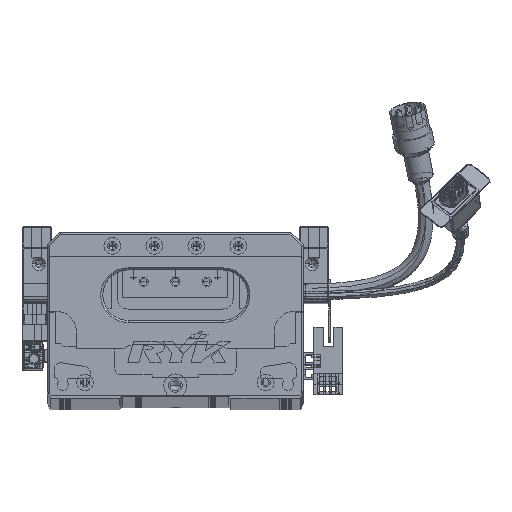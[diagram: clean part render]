
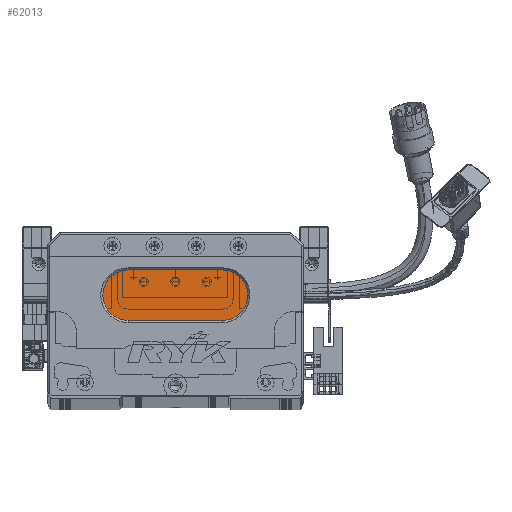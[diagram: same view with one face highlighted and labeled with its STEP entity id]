
A CAD part, top view. The second image highlights one B-rep face of the part: STEP entity #62013.
In plain terms, the highlighted planar face has unit normal (0, 0, 1) as drawn and (0, 0, -1) by its records, which use the part's own axes.
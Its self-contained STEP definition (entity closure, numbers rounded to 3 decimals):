
#4342 = CARTESIAN_POINT ( 'NONE',  ( 38.5, 60., 13. ) ) ;
#5129 = ORIENTED_EDGE ( 'NONE', *, *, #92945, .T. ) ;
#9127 = ORIENTED_EDGE ( 'NONE', *, *, #35374, .T. ) ;
#17272 = VECTOR ( 'NONE', #79340, 1000. ) ;
#17290 = DIRECTION ( 'NONE',  ( -1., 0., 0. ) ) ;
#18651 = CARTESIAN_POINT ( 'NONE',  ( 83.5, 48., 13. ) ) ;
#24919 = VERTEX_POINT ( 'NONE', #4342 ) ;
#26559 = PLANE ( 'NONE',  #80984 ) ;
#28367 = DIRECTION ( 'NONE',  ( 0., 0., -1. ) ) ;
#28507 = AXIS2_PLACEMENT_3D ( 'NONE', #18651, #28367, #92308 ) ;
#35374 = EDGE_CURVE ( 'NONE', #62119, #24919, #78402, .T. ) ;
#49690 = DIRECTION ( 'NONE',  ( -1., 0., 0. ) ) ;
#50902 = CIRCLE ( 'NONE', #114497, 12. ) ;
#51396 = CARTESIAN_POINT ( 'NONE',  ( 83.5, 36., 13. ) ) ;
#52210 = ORIENTED_EDGE ( 'NONE', *, *, #109076, .T. ) ;
#58919 = DIRECTION ( 'NONE',  ( 0., 0., -1. ) ) ;
#59826 = CARTESIAN_POINT ( 'NONE',  ( 38.5, 48., 13. ) ) ;
#61555 = DIRECTION ( 'NONE',  ( -1., 0., 0. ) ) ;
#62013 = ADVANCED_FACE ( 'NONE', ( #126115 ), #26559, .T. ) ;
#62119 = VERTEX_POINT ( 'NONE', #90502 ) ;
#68036 = DIRECTION ( 'NONE',  ( 0., 0., -1. ) ) ;
#73373 = LINE ( 'NONE', #132583, #17272 ) ;
#76301 = EDGE_CURVE ( 'NONE', #118596, #106423, #131019, .T. ) ;
#78402 = CIRCLE ( 'NONE', #131063, 12. ) ;
#79340 = DIRECTION ( 'NONE',  ( 1., 0., 0. ) ) ;
#79958 = CARTESIAN_POINT ( 'NONE',  ( 83.5, 48., 13. ) ) ;
#80984 = AXIS2_PLACEMENT_3D ( 'NONE', #79958, #68036, #17290 ) ;
#85512 = CARTESIAN_POINT ( 'NONE',  ( 83.5, 60., 13. ) ) ;
#86881 = ORIENTED_EDGE ( 'NONE', *, *, #76301, .T. ) ;
#90502 = CARTESIAN_POINT ( 'NONE',  ( 26.5, 48., 13. ) ) ;
#92308 = DIRECTION ( 'NONE',  ( -1., 0., 0. ) ) ;
#92945 = EDGE_CURVE ( 'NONE', #107921, #118596, #109652, .T. ) ;
#97432 = CARTESIAN_POINT ( 'NONE',  ( 38.5, 36., 13. ) ) ;
#101983 = DIRECTION ( 'NONE',  ( 0., 0., -1. ) ) ;
#104267 = ORIENTED_EDGE ( 'NONE', *, *, #116282, .T. ) ;
#106423 = VERTEX_POINT ( 'NONE', #97432 ) ;
#107921 = VERTEX_POINT ( 'NONE', #85512 ) ;
#109076 = EDGE_CURVE ( 'NONE', #106423, #62119, #50902, .T. ) ;
#109652 = CIRCLE ( 'NONE', #28507, 12. ) ;
#114497 = AXIS2_PLACEMENT_3D ( 'NONE', #133735, #101983, #61555 ) ;
#116282 = EDGE_CURVE ( 'NONE', #24919, #107921, #73373, .T. ) ;
#118596 = VERTEX_POINT ( 'NONE', #130394 ) ;
#119266 = EDGE_LOOP ( 'NONE', ( #5129, #86881, #52210, #9127, #104267 ) ) ;
#126115 = FACE_OUTER_BOUND ( 'NONE', #119266, .T. ) ;
#126118 = VECTOR ( 'NONE', #135506, 1000. ) ;
#130394 = CARTESIAN_POINT ( 'NONE',  ( 83.5, 36., 13. ) ) ;
#131019 = LINE ( 'NONE', #51396, #126118 ) ;
#131063 = AXIS2_PLACEMENT_3D ( 'NONE', #59826, #58919, #49690 ) ;
#132583 = CARTESIAN_POINT ( 'NONE',  ( 83.5, 60., 13. ) ) ;
#133735 = CARTESIAN_POINT ( 'NONE',  ( 38.5, 48., 13. ) ) ;
#135506 = DIRECTION ( 'NONE',  ( -1., 0., 0. ) ) ;
